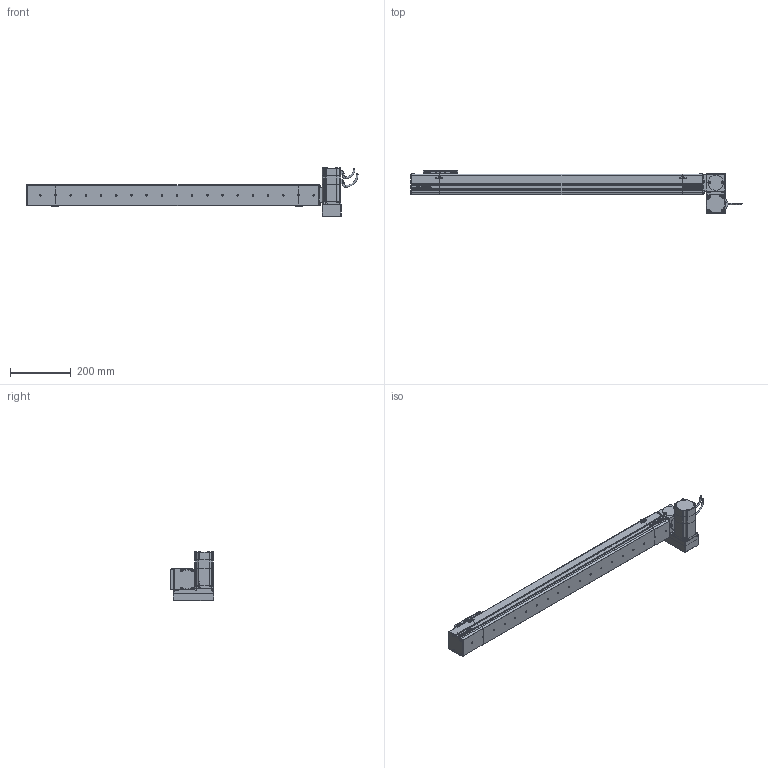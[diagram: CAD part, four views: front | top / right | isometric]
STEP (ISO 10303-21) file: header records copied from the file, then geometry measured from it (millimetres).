
FILE_DESCRIPTION (( 'STEP AP214' ), '1' );
FILE_NAME ('S07 CBN RU S800.STEP', '2010-06-29T10:09:39', ( 'Conseil Régional Haute-Normandie' ), ( 'Conseil Régional Haute-Normandie' ), 'SwSTEP 2.0', 'SolidWorks 2010', '' );
FILE_SCHEMA (( 'AUTOMOTIVE_DESIGN' ));
Length unit declared in the file: millimetre
Products named in the file (31): vis M5 L8_Default; support chariot_Default; chariot_Default; Chariot S07_Default; vis M5 L15_Default; plaque de serrage Tail_Default; Tail S07 Tail_Default; Couvercle S07 S800_Default; Corp S07 S800_Default; Plaque de bout Tail_Default; Couvercle Tail_Default; Corp Tail_Default; VisM3_Default; Conecteur2 60BLDC_Default; Conecteur 60BLDC_Default; Corp RU_Default; Head RU_Default; S07 CBN RU S800; Plaque de bout RU_Default; Couvercle RU_Default; Support Moteur RU_Default; Rondelle de Serrage RU_Default; plaque de serrage RU_Default; P2 90A_Default; P1_Default; 60BLDC90A-640_Default; Cache Support Moteur RU_Default; Axe 60BLDC_Default; P4_Default; P3 90A_Default
Assembly tree (71 placements, depth 4):
  S07 CBN RU S800
    Tail S07 Tail_Default
      vis M5 L15_Default  x6
      plaque de serrage Tail_Default
      Couvercle Tail_Default
      Plaque de bout Tail_Default
      Corp Tail_Default
    Corp S07 S800_Default
      Couvercle S07 S800_Default
      Corp S07 S800_Default
    Head RU_Default
      vis M5 L15_Default  x16
      Corp RU_Default
      Rondelle de Serrage RU_Default  x3
      Support Moteur RU_Default
      plaque de serrage RU_Default
      Couvercle RU_Default
      Plaque de bout RU_Default
      Cache Support Moteur RU_Default
      60BLDC90A-640_Default
        VisM3_Default  x12
        P1_Default
        Conecteur 60BLDC_Default
        P4_Default
        Axe 60BLDC_Default
        P2 90A_Default
        Conecteur2 60BLDC_Default
        P3 90A_Default
    Chariot S07_Default
      vis M5 L8_Default  x8
      support chariot_Default
      chariot_Default
Bounding box: 1093.2 x 142 x 162 mm (x, y, z)
Volume: 5189064.2 mm3; surface area: 676734.5 mm2
Topology: 108 solids, 108 shells, 3898 faces, 9602 edges, 6180 vertices
Faces by surface type: plane 2252, bspline 756, cylinder 679, torus 112, cone 95, sphere 4
Entity records: 153513 total; most frequent: CARTESIAN_POINT 79617, ORIENTED_EDGE 14724, DIRECTION 10995, EDGE_CURVE 7362, VERTEX_POINT 4865, LINE 4777, VECTOR 4777, EDGE_LOOP 3157
